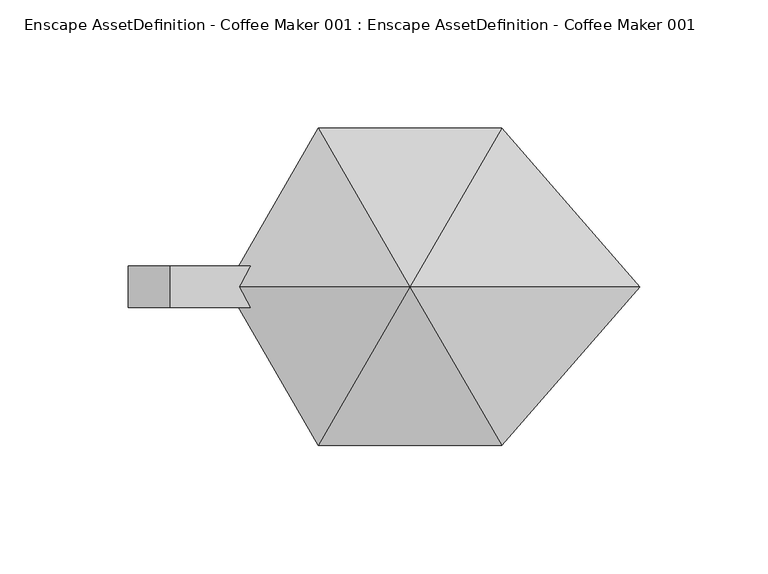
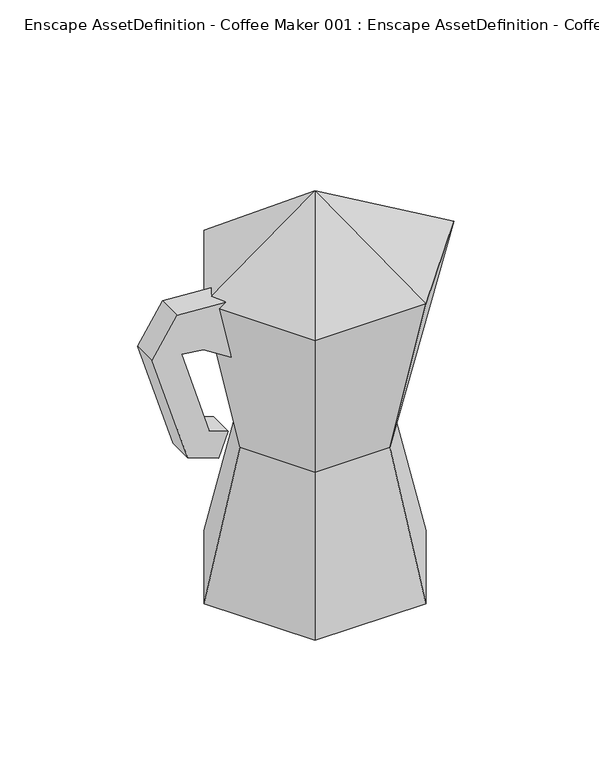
"""IFC4 building model written with IfcOpenShell, lengths in millimetres: geographic element geometry, Enscape AssetDefinition - Coffee Maker 001 : Enscape AssetDefinition - Coffee Maker 001."""

from ifc_helpers import new_model, si_unit, origin, place, context, project, spatial, triangles, source, transform, mapped, element, save


def enscape_assetdefinition_coffee_maker_001_enscape_8fe14100(model_context):
    return source(origin(), model_context, "Body", "Tessellation", [
        triangles([(35.3844499, -61.8781044, 0.0), (71.082489, -0.0472955, 0.0), (-71.70964, -0.0473017, 0.0), (-36.0115987, -61.8781044, 0.0), (-36.01161, 61.7835062, 0.0), (35.3844545, 61.7835108, 0.0), (23.8450607, -41.8912929, 98.2191865), (35.3844545, 61.7835108, 204.0852536), (23.8450652, 41.7967039, 98.2191865), (89.1915217, -0.0472955, 204.0852536), (48.003706, -0.0472957, 98.2191865), (-24.4722231, 41.7967039, 98.2191865), (-36.01161, 61.7835062, 204.0852536), (35.3844499, -61.8781044, 204.0852536), (-36.0115987, -61.8781044, 204.0852536), (-0.313575, -0.0472959, 256.1213943), (-71.7096309, -0.0473017, 204.0852536), (-48.6308616, -0.0473, 98.2191865), (-24.472214, -41.8912929, 98.2191865), (-48.2668213, -8.0895442, 206.0393495), (-48.403945, -8.0895407, 161.3836086), (-48.2668213, 8.0895146, 206.0393495), (-76.7683156, -8.0895407, 179.5385688), (-91.1530753, -8.0895407, 181.3180932), (-91.1530753, 8.089518, 181.3180932), (-48.403945, 8.089518, 161.383645), (-76.7683156, 8.089518, 179.5385688), (-93.9292049, 8.0895146, 209.0404199), (-109.9766629, 8.089518, 183.7800613), (-109.9766629, -8.0895407, 183.7800613), (-73.1944422, 8.0895283, 122.9525696), (-87.1843586, 8.0895305, 109.7050043), (-93.9292049, -8.0895442, 209.0404199), (-73.1944422, -8.0895305, 122.9525696), (-61.0741382, 8.0895294, 118.4872172), (-67.0434913, 8.0895322, 102.2846814), (-67.0434913, -8.0895277, 102.2846814), (-61.0741382, -8.0895305, 118.4872172), (-87.1843586, -8.0895283, 109.7050043)], [[37, 36, 35], [35, 38, 37], [34, 38, 35], [38, 34, 39], [39, 37, 38], [37, 39, 32], [32, 36, 37], [36, 32, 31], [35, 31, 34], [31, 35, 36], [24, 34, 31], [34, 24, 30], [30, 39, 34], [33, 30, 24], [39, 30, 29], [29, 32, 39], [32, 29, 25], [31, 25, 24], [25, 31, 32], [27, 25, 29], [30, 33, 28], [29, 28, 27], [28, 29, 30], [22, 28, 33], [28, 22, 26], [26, 27, 28], [27, 26, 21], [25, 27, 23], [24, 23, 33], [23, 24, 25], [21, 23, 27], [26, 22, 20], [33, 20, 22], [23, 21, 20], [21, 26, 20], [20, 33, 23], [19, 15, 18], [15, 17, 18], [17, 15, 16], [13, 17, 16], [14, 15, 19], [15, 14, 16], [14, 10, 16], [8, 13, 16], [10, 8, 16], [13, 8, 9], [17, 13, 12], [18, 17, 12], [12, 13, 9], [3, 18, 12], [5, 12, 9], [5, 3, 12], [6, 5, 9], [8, 10, 11], [6, 9, 11], [9, 8, 11], [10, 14, 7], [11, 10, 7], [7, 14, 19], [2, 11, 7], [5, 6, 2], [2, 6, 11], [4, 19, 18], [4, 5, 2], [4, 3, 5], [3, 4, 18], [1, 7, 19], [1, 2, 7], [4, 1, 19], [1, 4, 2]]),
    ])


if __name__ == "__main__":
    model = new_model("IFC4")
    model_context = context("Model", 3, world=origin())
    ifc_project = project(units=[si_unit("LENGTHUNIT", "METRE", prefix="MILLI")], contexts=[model_context])
    site = spatial("IfcSite", under=ifc_project)
    building = spatial("IfcBuilding", under=site)
    placement = place(None, origin())
    enscape_assetdefinition_coffee_maker_001_enscape_shape = enscape_assetdefinition_coffee_maker_001_enscape_8fe14100(model_context)
    element("IfcGeographicElement", 1, ObjectType="Enscape AssetDefinition - Coffee Maker 001 : Enscape AssetDefinition - Coffee Maker 001", at=placement, inside=building, context=model_context, shape_type="MappedRepresentation", body=[
        mapped(enscape_assetdefinition_coffee_maker_001_enscape_shape, transform((0.0, 0.0, 0.0), x_axis=(1.0, 0.0, 0.0), y_axis=(0.0, 1.0, 0.0), z_axis=(0.0, 0.0, 1.0))),
    ])
    save(model, "model.ifc")
